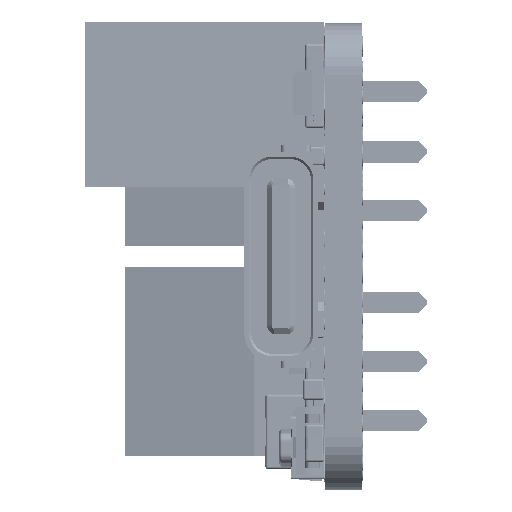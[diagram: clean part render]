
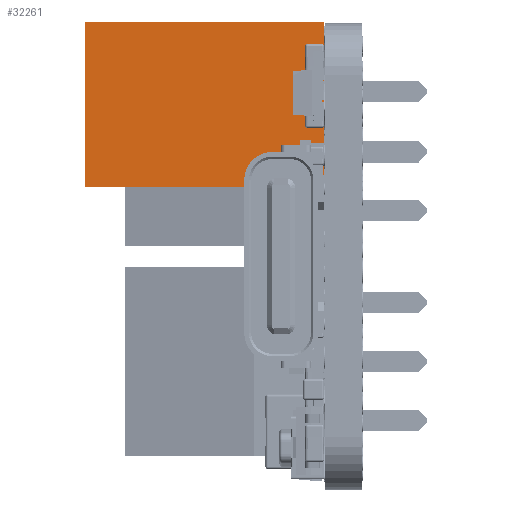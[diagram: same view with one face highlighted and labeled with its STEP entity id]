
A CAD part, left-side view. The second image highlights one B-rep face of the part: STEP entity #32261.
In plain terms, the highlighted planar face has unit normal (-1, 0, 0).
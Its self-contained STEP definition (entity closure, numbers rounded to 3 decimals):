
#9272 = EDGE_LOOP ( 'NONE', ( #79907, #79976, #79855, #79890 ) ) ;
#12423 = VERTEX_POINT ( 'NONE', #384665 ) ;
#12507 = VERTEX_POINT ( 'NONE', #384695 ) ;
#12548 = VERTEX_POINT ( 'NONE', #384832 ) ;
#12594 = VERTEX_POINT ( 'NONE', #384807 ) ;
#23275 = EDGE_CURVE ( 'NONE', #12423, #12507, #100825, .T. ) ;
#23745 = EDGE_CURVE ( 'NONE', #12594, #12423, #101310, .T. ) ;
#23826 = EDGE_CURVE ( 'NONE', #12507, #12548, #101258, .T. ) ;
#23879 = EDGE_CURVE ( 'NONE', #12594, #12548, #101438, .T. ) ;
#32261 = ADVANCED_FACE ( 'NONE', ( #50805 ), #38924, .F. ) ;
#38778 = DIRECTION ( 'NONE',  ( 1., 0., 0. ) ) ;
#38823 = CARTESIAN_POINT ( 'NONE',  ( -9.825, 10.21, -3.525 ) ) ;
#38880 = DIRECTION ( 'NONE',  ( 0., 0., -1. ) ) ;
#38924 = PLANE ( 'NONE',  #363314 ) ;
#50805 = FACE_OUTER_BOUND ( 'NONE', #9272, .T. ) ;
#79855 = ORIENTED_EDGE ( 'NONE', *, *, #23275, .F. ) ;
#79890 = ORIENTED_EDGE ( 'NONE', *, *, #23745, .F. ) ;
#79907 = ORIENTED_EDGE ( 'NONE', *, *, #23879, .T. ) ;
#79976 = ORIENTED_EDGE ( 'NONE', *, *, #23826, .F. ) ;
#90720 = CARTESIAN_POINT ( 'NONE',  ( -9.825, 10.21, 3.525 ) ) ;
#90723 = DIRECTION ( 'NONE',  ( 0., -1., 0. ) ) ;
#100741 = VECTOR ( 'NONE', #90723, 1000. ) ;
#100825 = LINE ( 'NONE', #90720, #100741 ) ;
#101258 = LINE ( 'NONE', #105118, #101274 ) ;
#101274 = VECTOR ( 'NONE', #105126, 1000. ) ;
#101310 = LINE ( 'NONE', #105107, #101320 ) ;
#101320 = VECTOR ( 'NONE', #105098, 1000. ) ;
#101438 = LINE ( 'NONE', #105174, #101488 ) ;
#101488 = VECTOR ( 'NONE', #105177, 1000. ) ;
#105098 = DIRECTION ( 'NONE',  ( 0., 0., 1. ) ) ;
#105107 = CARTESIAN_POINT ( 'NONE',  ( -9.825, 10.21, -3.525 ) ) ;
#105118 = CARTESIAN_POINT ( 'NONE',  ( -9.825, 0.01, 3.525 ) ) ;
#105126 = DIRECTION ( 'NONE',  ( 0., 0., -1. ) ) ;
#105174 = CARTESIAN_POINT ( 'NONE',  ( -9.825, 10.21, -3.525 ) ) ;
#105177 = DIRECTION ( 'NONE',  ( 0., -1., 0. ) ) ;
#363314 = AXIS2_PLACEMENT_3D ( 'NONE', #38823, #38778, #38880 ) ;
#384665 = CARTESIAN_POINT ( 'NONE',  ( -9.825, 10.21, 3.525 ) ) ;
#384695 = CARTESIAN_POINT ( 'NONE',  ( -9.825, 0.01, 3.525 ) ) ;
#384807 = CARTESIAN_POINT ( 'NONE',  ( -9.825, 10.21, -3.525 ) ) ;
#384832 = CARTESIAN_POINT ( 'NONE',  ( -9.825, 0.01, -3.525 ) ) ;
